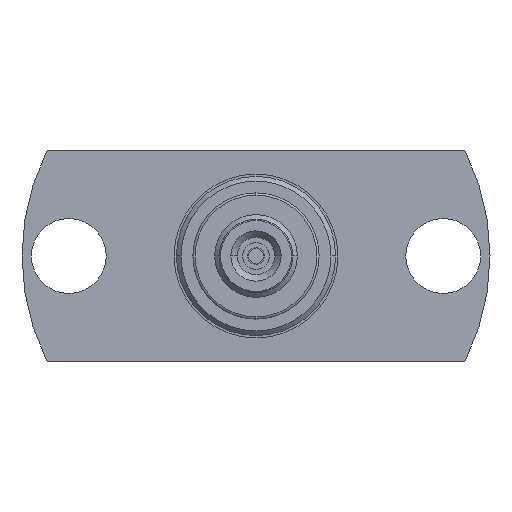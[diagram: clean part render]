
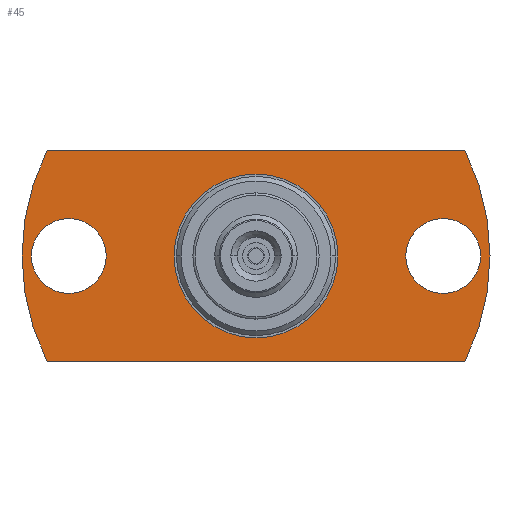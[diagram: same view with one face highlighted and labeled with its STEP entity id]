
A CAD part, front view. The second image highlights one B-rep face of the part: STEP entity #45.
In plain terms, the highlighted planar face has unit normal (0, -1, 0).
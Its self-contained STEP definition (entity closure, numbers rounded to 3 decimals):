
#17 = AXIS2_PLACEMENT_3D ( 'NONE', #575, #1317, #1754 ) ;
#45 = ADVANCED_FACE ( 'NONE', ( #553, #504, #95, #1759 ), #1821, .T. ) ;
#47 = CARTESIAN_POINT ( 'NONE',  ( 0., 23.6, 0. ) ) ;
#81 = ORIENTED_EDGE ( 'NONE', *, *, #1509, .T. ) ;
#95 = FACE_OUTER_BOUND ( 'NONE', #634, .T. ) ;
#99 = DIRECTION ( 'NONE',  ( 0., -1., 0. ) ) ;
#110 = AXIS2_PLACEMENT_3D ( 'NONE', #477, #271, #1812 ) ;
#111 = CIRCLE ( 'NONE', #17, 3.5 ) ;
#138 = CARTESIAN_POINT ( 'NONE',  ( 3.5, 23.6, 0. ) ) ;
#173 = DIRECTION ( 'NONE',  ( 0., 1., 0. ) ) ;
#194 = DIRECTION ( 'NONE',  ( 1., 0., 0. ) ) ;
#197 = CARTESIAN_POINT ( 'NONE',  ( -9.6, 23.6, 0. ) ) ;
#207 = CARTESIAN_POINT ( 'NONE',  ( 0., 23.6, 0. ) ) ;
#218 = DIRECTION ( 'NONE',  ( 0., -1., 0. ) ) ;
#254 = ORIENTED_EDGE ( 'NONE', *, *, #260, .T. ) ;
#260 = EDGE_CURVE ( 'NONE', #510, #984, #1501, .T. ) ;
#271 = DIRECTION ( 'NONE',  ( 0., 1., 0. ) ) ;
#294 = CARTESIAN_POINT ( 'NONE',  ( 8.93, 23.6, 4.5 ) ) ;
#315 = DIRECTION ( 'NONE',  ( 0., 1., 0. ) ) ;
#330 = DIRECTION ( 'NONE',  ( 1., 0., 0. ) ) ;
#381 = VERTEX_POINT ( 'NONE', #197 ) ;
#392 = AXIS2_PLACEMENT_3D ( 'NONE', #207, #218, #1969 ) ;
#427 = AXIS2_PLACEMENT_3D ( 'NONE', #438, #173, #1131 ) ;
#438 = CARTESIAN_POINT ( 'NONE',  ( -8., 23.6, 0. ) ) ;
#449 = CARTESIAN_POINT ( 'NONE',  ( 10., 23.6, 0. ) ) ;
#454 = EDGE_CURVE ( 'NONE', #1253, #1278, #1644, .T. ) ;
#461 = CARTESIAN_POINT ( 'NONE',  ( -8.93, 23.6, 4.5 ) ) ;
#477 = CARTESIAN_POINT ( 'NONE',  ( 8., 23.6, 0. ) ) ;
#478 = EDGE_CURVE ( 'NONE', #1722, #1201, #1311, .T. ) ;
#504 = FACE_BOUND ( 'NONE', #749, .T. ) ;
#510 = VERTEX_POINT ( 'NONE', #1488 ) ;
#513 = ORIENTED_EDGE ( 'NONE', *, *, #915, .T. ) ;
#553 = FACE_BOUND ( 'NONE', #918, .T. ) ;
#559 = VERTEX_POINT ( 'NONE', #580 ) ;
#561 = ORIENTED_EDGE ( 'NONE', *, *, #1450, .T. ) ;
#575 = CARTESIAN_POINT ( 'NONE',  ( 0., 23.6, 0. ) ) ;
#580 = CARTESIAN_POINT ( 'NONE',  ( -8.93, 23.6, 4.5 ) ) ;
#606 = CARTESIAN_POINT ( 'NONE',  ( 0., 23.6, 0. ) ) ;
#616 = CIRCLE ( 'NONE', #1871, 10. ) ;
#634 = EDGE_LOOP ( 'NONE', ( #1040, #561, #1780, #81, #2008 ) ) ;
#640 = EDGE_CURVE ( 'NONE', #381, #1375, #1777, .T. ) ;
#661 = DIRECTION ( 'NONE',  ( 1., 0., 0. ) ) ;
#682 = CIRCLE ( 'NONE', #1087, 3.5 ) ;
#687 = ORIENTED_EDGE ( 'NONE', *, *, #1074, .F. ) ;
#749 = EDGE_LOOP ( 'NONE', ( #900, #788 ) ) ;
#752 = CIRCLE ( 'NONE', #392, 10. ) ;
#755 = VECTOR ( 'NONE', #1240, 1000. ) ;
#771 = CARTESIAN_POINT ( 'NONE',  ( -8.93, 23.6, -4.5 ) ) ;
#788 = ORIENTED_EDGE ( 'NONE', *, *, #1243, .T. ) ;
#809 = VECTOR ( 'NONE', #330, 1000. ) ;
#815 = CARTESIAN_POINT ( 'NONE',  ( 6.4, 23.6, 0. ) ) ;
#886 = DIRECTION ( 'NONE',  ( 0., -1., 0. ) ) ;
#900 = ORIENTED_EDGE ( 'NONE', *, *, #640, .T. ) ;
#902 = CARTESIAN_POINT ( 'NONE',  ( 8., 23.6, 0. ) ) ;
#915 = EDGE_CURVE ( 'NONE', #984, #510, #1642, .T. ) ;
#918 = EDGE_LOOP ( 'NONE', ( #513, #254 ) ) ;
#953 = EDGE_CURVE ( 'NONE', #1278, #559, #1962, .T. ) ;
#984 = VERTEX_POINT ( 'NONE', #815 ) ;
#1000 = CARTESIAN_POINT ( 'NONE',  ( 0., 23.6, 0. ) ) ;
#1040 = ORIENTED_EDGE ( 'NONE', *, *, #953, .T. ) ;
#1074 = EDGE_CURVE ( 'NONE', #1090, #1737, #111, .T. ) ;
#1087 = AXIS2_PLACEMENT_3D ( 'NONE', #606, #886, #194 ) ;
#1090 = VERTEX_POINT ( 'NONE', #1843 ) ;
#1131 = DIRECTION ( 'NONE',  ( 1., 0., 0. ) ) ;
#1152 = DIRECTION ( 'NONE',  ( 0., -1., 0. ) ) ;
#1166 = DIRECTION ( 'NONE',  ( 1., 0., 0. ) ) ;
#1201 = VERTEX_POINT ( 'NONE', #1586 ) ;
#1240 = DIRECTION ( 'NONE',  ( -1., 0., 0. ) ) ;
#1243 = EDGE_CURVE ( 'NONE', #1375, #381, #1495, .T. ) ;
#1253 = VERTEX_POINT ( 'NONE', #449 ) ;
#1278 = VERTEX_POINT ( 'NONE', #294 ) ;
#1311 = LINE ( 'NONE', #771, #809 ) ;
#1317 = DIRECTION ( 'NONE',  ( 0., -1., 0. ) ) ;
#1358 = AXIS2_PLACEMENT_3D ( 'NONE', #1000, #1152, #1388 ) ;
#1375 = VERTEX_POINT ( 'NONE', #1894 ) ;
#1388 = DIRECTION ( 'NONE',  ( 1., 0., 0. ) ) ;
#1430 = DIRECTION ( 'NONE',  ( 0., 1., 0. ) ) ;
#1450 = EDGE_CURVE ( 'NONE', #559, #1722, #752, .T. ) ;
#1480 = DIRECTION ( 'NONE',  ( 1., 0., 0. ) ) ;
#1488 = CARTESIAN_POINT ( 'NONE',  ( 9.6, 23.6, 0. ) ) ;
#1495 = CIRCLE ( 'NONE', #427, 1.6 ) ;
#1501 = CIRCLE ( 'NONE', #1805, 1.6 ) ;
#1509 = EDGE_CURVE ( 'NONE', #1201, #1253, #616, .T. ) ;
#1540 = AXIS2_PLACEMENT_3D ( 'NONE', #138, #1854, #1480 ) ;
#1550 = CARTESIAN_POINT ( 'NONE',  ( -8., 23.6, 0. ) ) ;
#1586 = CARTESIAN_POINT ( 'NONE',  ( 8.93, 23.6, -4.5 ) ) ;
#1642 = CIRCLE ( 'NONE', #110, 1.6 ) ;
#1644 = CIRCLE ( 'NONE', #1358, 10. ) ;
#1649 = CARTESIAN_POINT ( 'NONE',  ( -8.93, 23.6, -4.5 ) ) ;
#1703 = CARTESIAN_POINT ( 'NONE',  ( -3.5, 23.6, 0. ) ) ;
#1722 = VERTEX_POINT ( 'NONE', #1649 ) ;
#1728 = EDGE_CURVE ( 'NONE', #1737, #1090, #682, .T. ) ;
#1737 = VERTEX_POINT ( 'NONE', #1703 ) ;
#1754 = DIRECTION ( 'NONE',  ( 1., 0., 0. ) ) ;
#1759 = FACE_BOUND ( 'NONE', #1963, .T. ) ;
#1777 = CIRCLE ( 'NONE', #1853, 1.6 ) ;
#1780 = ORIENTED_EDGE ( 'NONE', *, *, #478, .T. ) ;
#1805 = AXIS2_PLACEMENT_3D ( 'NONE', #902, #315, #1855 ) ;
#1812 = DIRECTION ( 'NONE',  ( 1., 0., 0. ) ) ;
#1821 = PLANE ( 'NONE',  #1540 ) ;
#1833 = ORIENTED_EDGE ( 'NONE', *, *, #1728, .F. ) ;
#1843 = CARTESIAN_POINT ( 'NONE',  ( 3.5, 23.6, 0. ) ) ;
#1853 = AXIS2_PLACEMENT_3D ( 'NONE', #1550, #1430, #661 ) ;
#1854 = DIRECTION ( 'NONE',  ( 0., -1., 0. ) ) ;
#1855 = DIRECTION ( 'NONE',  ( 1., 0., 0. ) ) ;
#1871 = AXIS2_PLACEMENT_3D ( 'NONE', #47, #99, #1166 ) ;
#1894 = CARTESIAN_POINT ( 'NONE',  ( -6.4, 23.6, 0. ) ) ;
#1962 = LINE ( 'NONE', #461, #755 ) ;
#1963 = EDGE_LOOP ( 'NONE', ( #687, #1833 ) ) ;
#1969 = DIRECTION ( 'NONE',  ( 1., 0., 0. ) ) ;
#2008 = ORIENTED_EDGE ( 'NONE', *, *, #454, .T. ) ;
